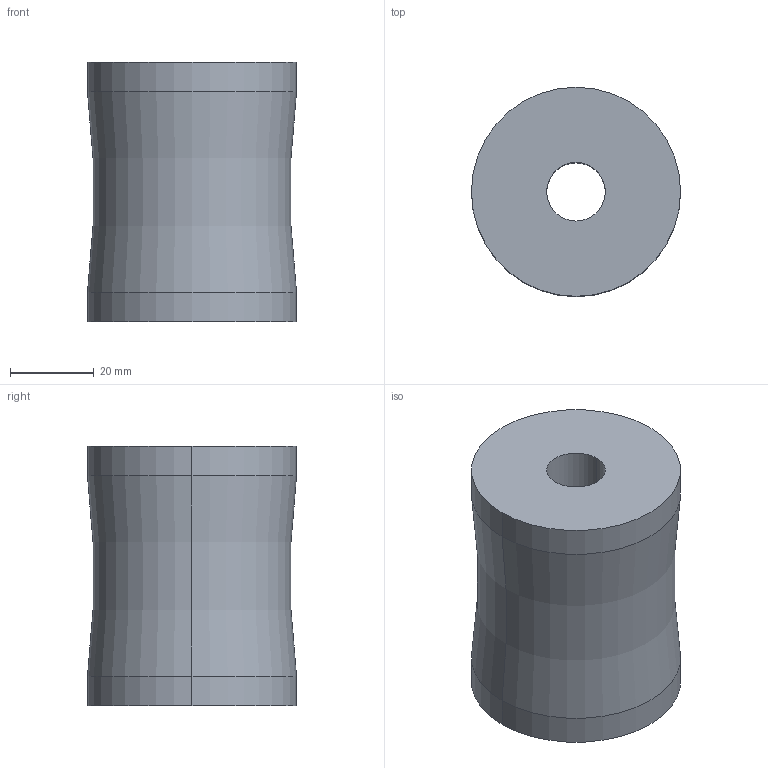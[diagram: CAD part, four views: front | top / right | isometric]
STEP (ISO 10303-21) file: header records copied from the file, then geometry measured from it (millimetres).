
FILE_DESCRIPTION(/* description */ (''),/* implementation_level */ '2;1');
FILE_NAME(/* name */ '3d_ex5146_06499_r00.stp',/* time_stamp */ '2011-01-10T14:15:38+09:00',/* author */ ('MISUMI'),/* organization */ (''),/* preprocessor_version */ 'ST-DEVELOPER v11',/* originating_system */ 'UGS - NX 5.0',/* authorisation */ '');
FILE_SCHEMA (('CONFIG_CONTROL_DESIGN'));
Length unit declared in the file: millimetre
Products named in the file (1): 3d_ex5146_06499_r00
Bounding box: 50 x 50 x 62 mm (x, y, z)
Volume: 104828 mm3; surface area: 15802.3 mm2
Topology: 1 solids, 1 shells, 10 faces, 20 edges, 12 vertices
Faces by surface type: cylinder 6, plane 2, torus 2
Entity records: 356 total; most frequent: DIRECTION 56, CARTESIAN_POINT 43, ORIENTED_EDGE 40, AXIS2_PLACEMENT_3D 25, EDGE_CURVE 20, CIRCLE 14, EDGE_LOOP 12, VERTEX_POINT 12
